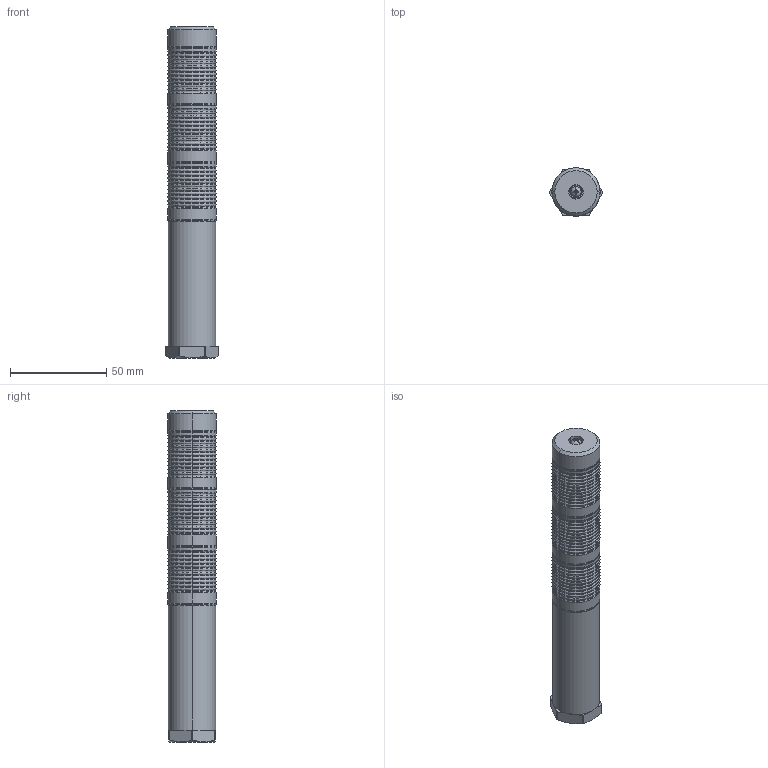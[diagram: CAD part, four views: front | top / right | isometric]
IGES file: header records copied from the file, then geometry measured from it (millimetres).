
Start section: IGES file generated by C3D Converter 1.6 translator by C3D Labs., translator version IGESOUT-5.1.
Global section: file name: HC:\Users\沓膼\OneDrive\Desktop\欙鵳醆TL25-024-RYG\TL25-024-RYG.igs; preprocessor: 1.0; author: 沓膼,7; organization: Hunknown; date: -17760624:194528; units: millimetre
Bounding box: 27.3 x 25 x 172.72 mm (x, y, z)
Volume: 60077.1 mm3; surface area: 26738 mm2
Topology: 12 solids, 12 shells, 247 faces, 518 edges, 290 vertices
Faces by surface type: revolution 202, bspline 45
